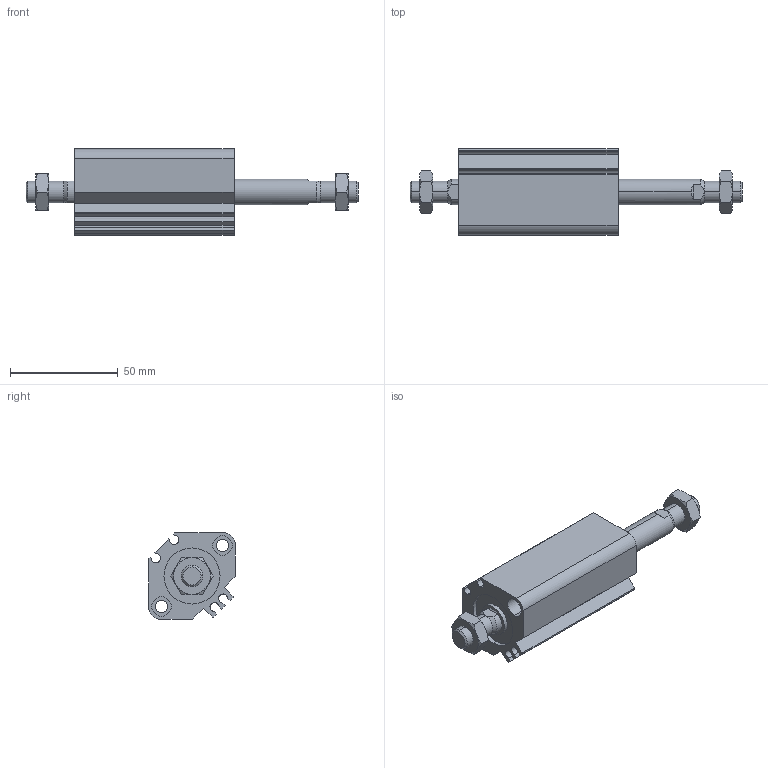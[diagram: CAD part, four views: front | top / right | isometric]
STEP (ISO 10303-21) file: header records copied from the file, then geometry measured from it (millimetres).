
FILE_DESCRIPTION (( 'STEP AP203' ), '1' );
FILE_NAME ('CCMB25-35M-P.STEP', '2020-08-10T11:29:26', ( '' ), ( '' ), 'SwSTEP 2.0', 'SolidWorks 2019', '' );
FILE_SCHEMA (( 'CONFIG_CONTROL_DESIGN' ));
Length unit declared in the file: millimetre
Products named in the file (1): CCMB25-35M-P
Bounding box: 154 x 40 x 40 mm (x, y, z)
Volume: 89752.8 mm3; surface area: 34244.4 mm2
Topology: 4 solids, 4 shells, 166 faces, 384 edges, 240 vertices
Faces by surface type: plane 66, cylinder 56, cone 44
Entity records: 5403 total; most frequent: CARTESIAN_POINT 1543, DIRECTION 806, ORIENTED_EDGE 768, EDGE_CURVE 384, AXIS2_PLACEMENT_3D 319, VERTEX_POINT 240, EDGE_LOOP 190, VECTOR 168
